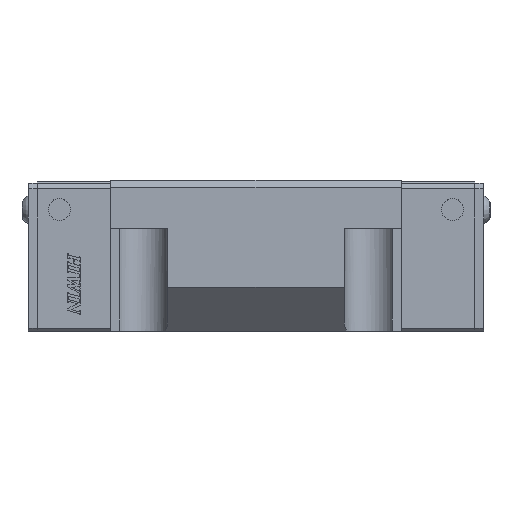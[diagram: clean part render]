
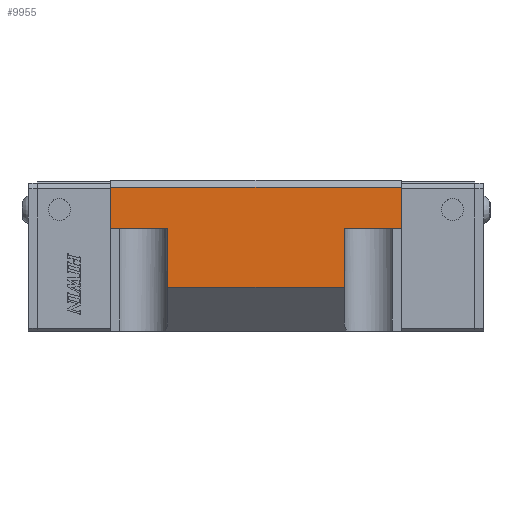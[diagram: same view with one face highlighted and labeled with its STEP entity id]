
A CAD part, top view. The second image highlights one B-rep face of the part: STEP entity #9955.
In plain terms, the highlighted planar face has unit normal (0, 0, 1) as drawn and (1, 0, 0) by its records, which use the part's own axes.
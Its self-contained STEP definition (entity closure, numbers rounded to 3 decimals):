
#731=LINE('',#15291,#1909);
#811=LINE('',#15481,#1989);
#813=LINE('',#15485,#1991);
#814=LINE('',#15487,#1992);
#815=LINE('',#15489,#1993);
#816=LINE('',#15491,#1994);
#817=LINE('',#15493,#1995);
#818=LINE('',#15494,#1996);
#1909=VECTOR('',#12397,10.);
#1989=VECTOR('',#12585,10.);
#1991=VECTOR('',#12589,10.);
#1992=VECTOR('',#12590,10.);
#1993=VECTOR('',#12591,10.);
#1994=VECTOR('',#12592,10.);
#1995=VECTOR('',#12593,10.);
#1996=VECTOR('',#12594,10.);
#2854=FACE_OUTER_BOUND('',#3400,.T.);
#3400=EDGE_LOOP('',(#7881,#7882,#7883,#7884,#7885,#7886,#7887,#7888));
#4415=VERTEX_POINT('',#15288);
#4416=VERTEX_POINT('',#15290);
#4472=VERTEX_POINT('',#15480);
#4473=VERTEX_POINT('',#15484);
#4474=VERTEX_POINT('',#15486);
#4475=VERTEX_POINT('',#15488);
#4476=VERTEX_POINT('',#15490);
#4477=VERTEX_POINT('',#15492);
#5604=EDGE_CURVE('',#4415,#4416,#731,.T.);
#5699=EDGE_CURVE('',#4472,#4415,#811,.T.);
#5701=EDGE_CURVE('',#4473,#4416,#813,.T.);
#5702=EDGE_CURVE('',#4474,#4472,#814,.T.);
#5703=EDGE_CURVE('',#4474,#4475,#815,.T.);
#5704=EDGE_CURVE('',#4475,#4476,#816,.T.);
#5705=EDGE_CURVE('',#4476,#4477,#817,.T.);
#5706=EDGE_CURVE('',#4477,#4473,#818,.T.);
#7881=ORIENTED_EDGE('',*,*,#5701,.T.);
#7882=ORIENTED_EDGE('',*,*,#5604,.F.);
#7883=ORIENTED_EDGE('',*,*,#5699,.F.);
#7884=ORIENTED_EDGE('',*,*,#5702,.F.);
#7885=ORIENTED_EDGE('',*,*,#5703,.T.);
#7886=ORIENTED_EDGE('',*,*,#5704,.T.);
#7887=ORIENTED_EDGE('',*,*,#5705,.T.);
#7888=ORIENTED_EDGE('',*,*,#5706,.T.);
#9496=PLANE('',#10721);
#9955=ADVANCED_FACE('',(#2854),#9496,.T.);
#10721=AXIS2_PLACEMENT_3D('',#15483,#12587,#12588);
#12397=DIRECTION('',(0.,-1.,0.));
#12585=DIRECTION('',(0.,0.,-1.));
#12587=DIRECTION('center_axis',(1.,0.,0.));
#12588=DIRECTION('ref_axis',(0.,-1.,0.));
#12589=DIRECTION('',(0.,0.,-1.));
#12590=DIRECTION('',(0.,1.,0.));
#12591=DIRECTION('',(0.,0.,-1.));
#12592=DIRECTION('',(0.,-1.,0.));
#12593=DIRECTION('',(0.,0.,-1.));
#12594=DIRECTION('',(0.,1.,0.));
#15288=CARTESIAN_POINT('',(50.,39.2,-50.503));
#15290=CARTESIAN_POINT('',(50.,28.,-50.503));
#15291=CARTESIAN_POINT('',(50.,39.2,-50.503));
#15480=CARTESIAN_POINT('',(50.,39.2,28.497));
#15481=CARTESIAN_POINT('',(50.,39.2,-11.003));
#15483=CARTESIAN_POINT('Origin',(50.,39.2,-11.003));
#15484=CARTESIAN_POINT('',(50.,28.,-35.003));
#15485=CARTESIAN_POINT('',(50.,28.,-11.003));
#15486=CARTESIAN_POINT('',(50.,28.,28.497));
#15487=CARTESIAN_POINT('',(50.,39.2,28.497));
#15488=CARTESIAN_POINT('',(50.,28.,12.997));
#15489=CARTESIAN_POINT('',(50.,28.,-11.003));
#15490=CARTESIAN_POINT('',(50.,11.919,12.997));
#15491=CARTESIAN_POINT('',(50.,19.635,12.997));
#15492=CARTESIAN_POINT('',(50.,11.919,-35.003));
#15493=CARTESIAN_POINT('',(50.,11.919,-11.003));
#15494=CARTESIAN_POINT('',(50.,19.635,-35.003));
